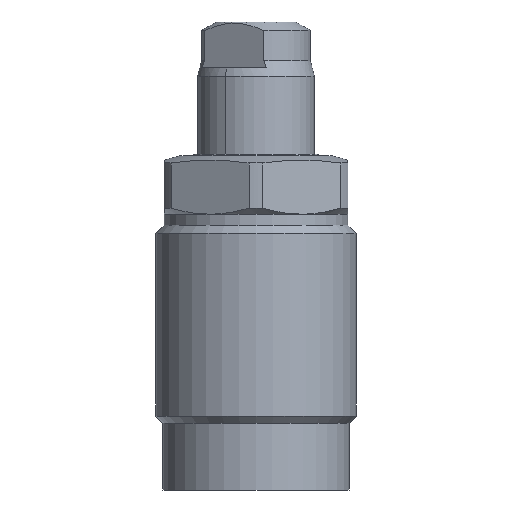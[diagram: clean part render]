
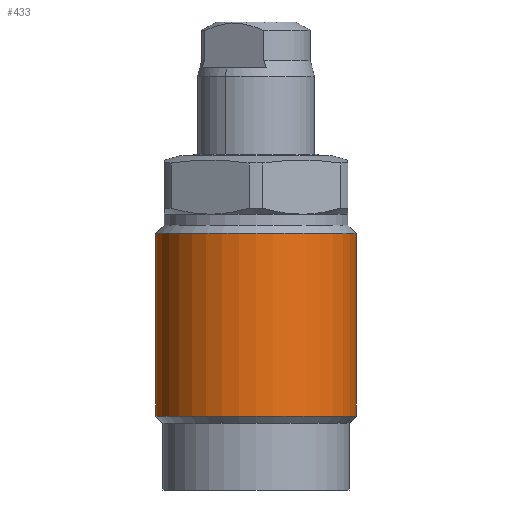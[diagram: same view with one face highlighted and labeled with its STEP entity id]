
A CAD part, front view. The second image highlights one B-rep face of the part: STEP entity #433.
In plain terms, the highlighted cylindrical face has radius 12 mm (diameter 24 mm), a partial arc.
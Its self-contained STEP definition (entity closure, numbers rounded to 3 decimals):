
#127 = ORIENTED_EDGE ( 'NONE', *, *, #481, .F. ) ;
#128 = ORIENTED_EDGE ( 'NONE', *, *, #542, .T. ) ;
#129 = ORIENTED_EDGE ( 'NONE', *, *, #482, .T. ) ;
#130 = ORIENTED_EDGE ( 'NONE', *, *, #543, .F. ) ;
#322 = VERTEX_POINT ( 'NONE', #1019 ) ;
#323 = VERTEX_POINT ( 'NONE', #1020 ) ;
#324 = VERTEX_POINT ( 'NONE', #1021 ) ;
#325 = VERTEX_POINT ( 'NONE', #1022 ) ;
#433 = ADVANCED_FACE ( 'NONE', ( #1145 ), #1148, .T. ) ;
#481 = EDGE_CURVE ( 'NONE', #324, #325, #1315, .T. ) ;
#482 = EDGE_CURVE ( 'NONE', #322, #323, #1320, .T. ) ;
#542 = EDGE_CURVE ( 'NONE', #324, #322, #1542, .T. ) ;
#543 = EDGE_CURVE ( 'NONE', #325, #323, #1544, .T. ) ;
#653 = EDGE_LOOP ( 'NONE', ( #127, #128, #129, #130 ) ) ;
#1019 = CARTESIAN_POINT ( 'NONE',  ( 12., 0., -31.15 ) ) ;
#1020 = CARTESIAN_POINT ( 'NONE',  ( 12., 0., -9.3 ) ) ;
#1021 = CARTESIAN_POINT ( 'NONE',  ( -12., 0., -31.15 ) ) ;
#1022 = CARTESIAN_POINT ( 'NONE',  ( -12., 0., -9.3 ) ) ;
#1143 = DIRECTION ( 'NONE',  ( 0., 0., 1. ) ) ;
#1145 = FACE_OUTER_BOUND ( 'NONE', #653, .T. ) ;
#1146 = CARTESIAN_POINT ( 'NONE',  ( 0., 0., 4.2 ) ) ;
#1148 = CYLINDRICAL_SURFACE ( 'NONE', #2377, 12. ) ;
#1149 = DIRECTION ( 'NONE',  ( 1., 0., 0. ) ) ;
#1313 = CARTESIAN_POINT ( 'NONE',  ( -12., 0., 4.2 ) ) ;
#1315 = LINE ( 'NONE', #1313, #1479 ) ;
#1319 = DIRECTION ( 'NONE',  ( 0., 0., 1. ) ) ;
#1320 = LINE ( 'NONE', #1322, #1482 ) ;
#1322 = CARTESIAN_POINT ( 'NONE',  ( 12., 0., 4.2 ) ) ;
#1323 = DIRECTION ( 'NONE',  ( 0., 0., 1. ) ) ;
#1479 = VECTOR ( 'NONE', #1319, 1000. ) ;
#1482 = VECTOR ( 'NONE', #1323, 1000. ) ;
#1542 = CIRCLE ( 'NONE', #1545, 12. ) ;
#1544 = CIRCLE ( 'NONE', #1547, 12. ) ;
#1545 = AXIS2_PLACEMENT_3D ( 'NONE', #1823, #1824, #1825 ) ;
#1547 = AXIS2_PLACEMENT_3D ( 'NONE', #1826, #1827, #1828 ) ;
#1823 = CARTESIAN_POINT ( 'NONE',  ( 0., 0., -31.15 ) ) ;
#1824 = DIRECTION ( 'NONE',  ( 0., 0., 1. ) ) ;
#1825 = DIRECTION ( 'NONE',  ( 1., 0., 0. ) ) ;
#1826 = CARTESIAN_POINT ( 'NONE',  ( 0., 0., -9.3 ) ) ;
#1827 = DIRECTION ( 'NONE',  ( 0., 0., 1. ) ) ;
#1828 = DIRECTION ( 'NONE',  ( 1., 0., 0. ) ) ;
#2377 = AXIS2_PLACEMENT_3D ( 'NONE', #1146, #1143, #1149 ) ;
